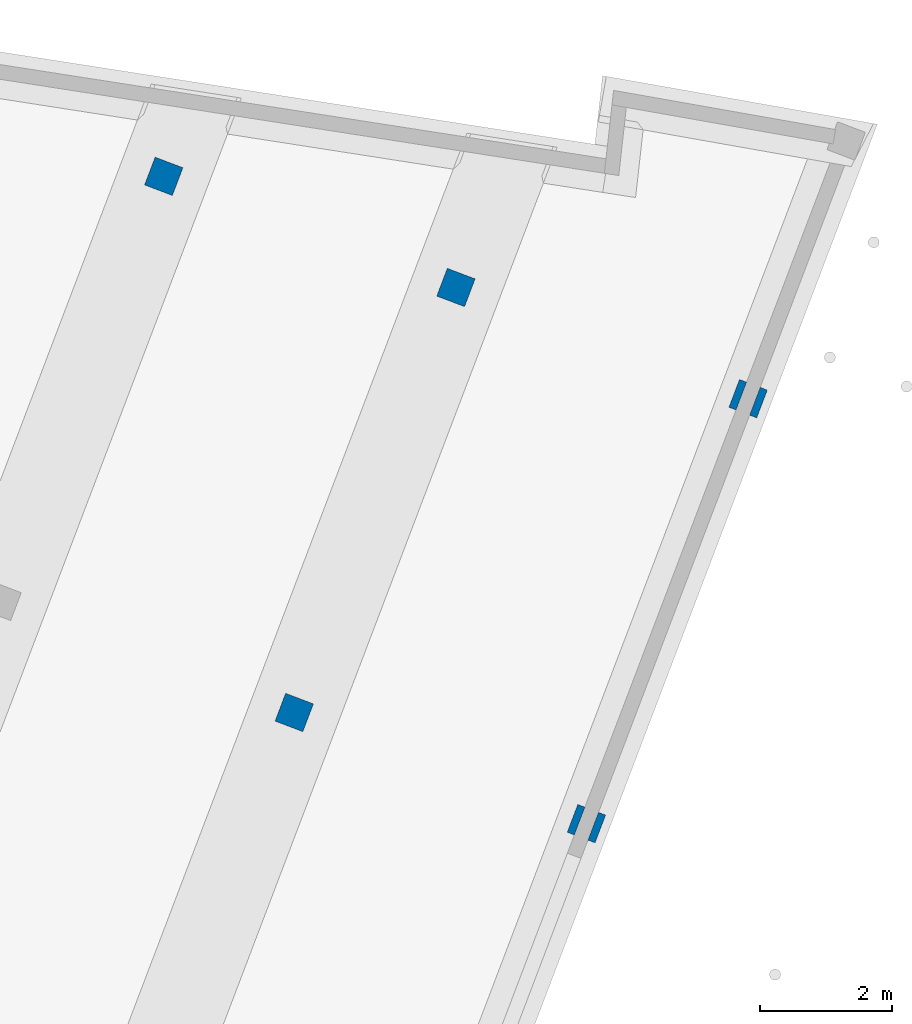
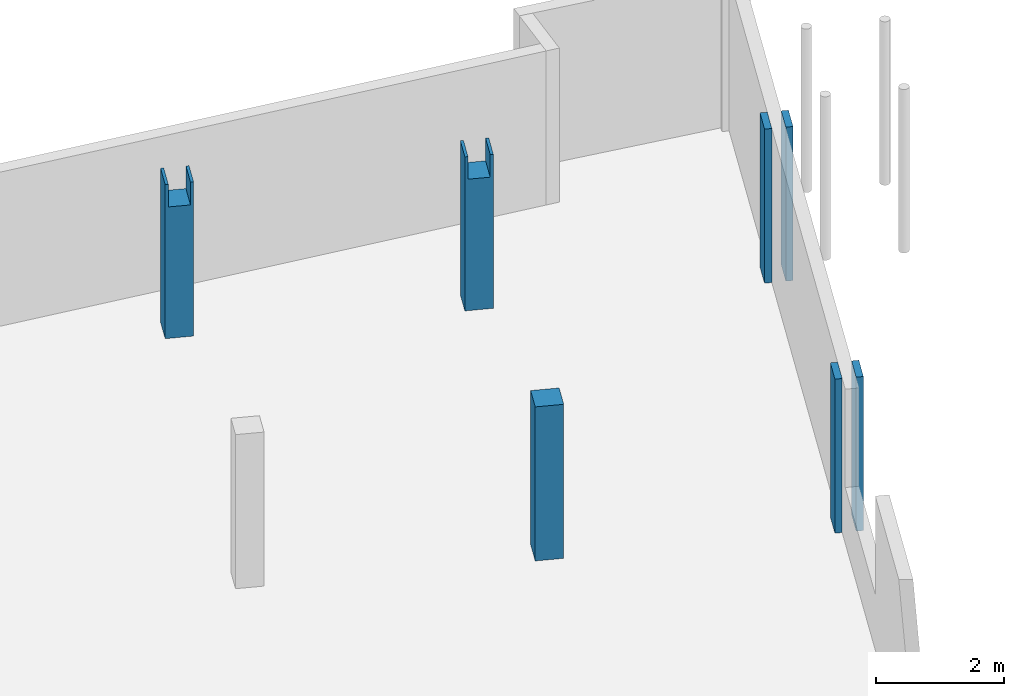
# One storey, part 3 of 11: 5 columns.
"""IFC2X3 building model written with IfcOpenShell, lengths in millimetres."""

from ifc_helpers import new_model, entity, si_unit, converted_unit, derived_unit, direction, frame, frame_2d, origin, place, context, subcontext, project, spatial, polyline, rectangle, outline, extrude, source, transform, mapped, material, type_object, type_shapes, element, save


model = new_model("IFC2X3")

# Units and contexts
model_context = context("Model", 3, precision=0.01, world=origin(), true_north=direction((6.123233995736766e-17, 1.0)))
body_context = subcontext(model_context, "Body", "Model", "MODEL_VIEW")
ifc_project = project(units=[si_unit("LENGTHUNIT", "METRE", prefix="MILLI"), converted_unit("PLANEANGLEUNIT", "DEGREE", entity("IfcPlaneAngleMeasure", 0.017453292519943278), si_unit("PLANEANGLEUNIT", "RADIAN"), dimensions=[0, 0, 0, 0, 0, 0, 0]), si_unit("AREAUNIT", "SQUARE_METRE"), derived_unit("THERMALTRANSMITTANCEUNIT", [(si_unit("MASSUNIT", "GRAM", prefix="KILO"), 1), (si_unit("THERMODYNAMICTEMPERATUREUNIT", "KELVIN"), -1), (si_unit("TIMEUNIT", "SECOND"), -3)])], contexts=[model_context])

# Site, building, storey
site_placement = place(None, frame((-72937.88054949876, 11621.45624098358, 0.0), z_axis=(0.0, 0.0, 1.0), x_axis=(0.9346418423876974, -0.35559053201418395, 0.0)))
site = spatial("IfcSite", under=ifc_project, at=site_placement, Name="Default", CompositionType="ELEMENT")
building_placement = place(site_placement, origin())
building = spatial("IfcBuilding", under=site, at=building_placement, CompositionType="ELEMENT")
storey_placement = place(building_placement, frame((0.0, 0.0, -3160.0)))
storey = spatial("IfcBuildingStorey", under=building, at=storey_placement, Name="-1 kelder", CompositionType="ELEMENT", Elevation=-3160.0)

# Columns
ifc_material = material(Name="beton_gewapend_ihw")
column_type_1 = type_object("IfcColumnType", Name="450x450mm", PredefinedType="COLUMN", material=ifc_material)
shared_shape_1 = source(origin(), body_context, "Body", "SweptSolid", [
    extrude(rectangle(XDim=2930.0, YDim=450.00000000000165, at=frame_2d((1.1368683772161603e-13, 0.0), x_axis=(1.0, 0.0))), frame((47885.0, 21880.0, -1695.0), z_axis=(1.0, 0.0, 0.0), x_axis=(0.0, 0.0, 1.0)), (0.0, 0.0, 1.0), 450.00000000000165),
])
type_shapes(column_type_1, [shared_shape_1])
column_1_placement = place(storey_placement, frame((0.0, 0.0, 3160.0)))
element("IfcColumn", 1, at=column_1_placement, inside=storey, type_object=column_type_1, material=ifc_material, Name="28.11_SCO_BetonKolomRechthoek:450x450mm", ObjectType="28.11_SCO_BetonKolomRechthoek:450x450mm", context=body_context, shape_type="MappedRepresentation", body=[
    mapped(shared_shape_1, transform((0.0, 0.0, 0.0), scale=1.0)),
])
column_type_2 = type_object("IfcColumnType", Name="450x450mm", PredefinedType="COLUMN", material=ifc_material)
shared_shape_2 = source(origin(), body_context, "Body", "SweptSolid", [
    extrude(rectangle(XDim=2930.0, YDim=114.99999999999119, at=frame_2d((1.1368683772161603e-13, 0.0), x_axis=(1.0, 0.0))), frame((52672.49999999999, 21655.0, -1695.0), z_axis=(0.0, 1.0, 0.0), x_axis=(0.0, 0.0, 1.0)), (0.0, 0.0, 1.0), 450.00000000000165),
    extrude(rectangle(XDim=2930.0, YDim=115.00000000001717, at=frame_2d((1.1368683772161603e-13, -1.2992273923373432e-11), x_axis=(1.0, 0.0))), frame((53007.5, 21655.0, -1695.0), z_axis=(0.0, 1.0, 0.0), x_axis=(0.0, 0.0, 1.0)), (0.0, 0.0, 1.0), 450.00000000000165),
])
type_shapes(column_type_2, [shared_shape_2])
column_2_placement = place(storey_placement, frame((0.0, 0.0, 3160.0)))
element("IfcColumn", 2, at=column_2_placement, inside=storey, type_object=column_type_2, material=ifc_material, Name="28.11_SCO_BetonKolomRechthoek:450x450mm", ObjectType="28.11_SCO_BetonKolomRechthoek:450x450mm", context=body_context, shape_type="MappedRepresentation", body=[
    mapped(shared_shape_2, transform((0.0, 0.0, 0.0), scale=1.0)),
])
column_type_3 = type_object("IfcColumnType", Name="450x450mm", PredefinedType="COLUMN", material=ifc_material)
shared_shape_3 = source(origin(), body_context, "Body", "SweptSolid", [
    extrude(outline(polyline([(-2090.0, -225.0), (840.0, -225.0), (840.0, -175.0), (410.0, -175.0), (410.0, 175.0), (840.0, 175.0), (840.0, 225.0), (-2090.0, 225.0), (-2090.0, -225.0)])), frame((43380.0, 28535.0, -1070.0), z_axis=(0.0, 1.0, 0.0), x_axis=(0.0, 0.0, 1.0)), (0.0, 0.0, 1.0), 450.00000000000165),
])
type_shapes(column_type_3, [shared_shape_3])
column_3_placement = place(storey_placement, frame((0.0, 0.0, 3160.0)))
element("IfcColumn", 3, at=column_3_placement, inside=storey, type_object=column_type_3, material=ifc_material, Name="28.11_SCO_BetonKolomRechthoek:450x450mm", ObjectType="28.11_SCO_BetonKolomRechthoek:450x450mm", context=body_context, shape_type="MappedRepresentation", body=[
    mapped(shared_shape_3, transform((0.0, 0.0, 0.0), scale=1.0)),
])
column_type_4 = type_object("IfcColumnType", Name="450x450mm", PredefinedType="COLUMN", material=ifc_material)
shared_shape_4 = source(origin(), body_context, "Body", "SweptSolid", [
    extrude(outline(polyline([(-2090.0, -225.0), (840.0, -225.0), (840.0, -175.0), (410.0, -175.0), (410.0, 175.0), (840.0, 175.0), (840.0, 225.0), (-2090.0, 225.0), (-2090.0, -225.0)])), frame((48110.0, 28535.0, -1070.0), z_axis=(0.0, 1.0, 0.0), x_axis=(0.0, 0.0, 1.0)), (0.0, 0.0, 1.0), 450.00000000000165),
])
type_shapes(column_type_4, [shared_shape_4])
column_4_placement = place(storey_placement, frame((0.0, 0.0, 3160.0)))
element("IfcColumn", 4, at=column_4_placement, inside=storey, type_object=column_type_4, material=ifc_material, Name="28.11_SCO_BetonKolomRechthoek:450x450mm", ObjectType="28.11_SCO_BetonKolomRechthoek:450x450mm", context=body_context, shape_type="MappedRepresentation", body=[
    mapped(shared_shape_4, transform((0.0, 0.0, 0.0), scale=1.0)),
])
column_type_5 = type_object("IfcColumnType", Name="450x450mm", PredefinedType="COLUMN", material=ifc_material)
shared_shape_5 = source(origin(), body_context, "Body", "SweptSolid", [
    extrude(rectangle(XDim=2930.0, YDim=114.99999999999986, at=frame_2d((1.1368683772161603e-13, -4.330757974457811e-12), x_axis=(1.0, 0.0))), frame((52672.5, 28535.0, -1695.0), z_axis=(0.0, 1.0, 0.0), x_axis=(0.0, 0.0, 1.0)), (0.0, 0.0, 1.0), 450.00000000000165),
    extrude(rectangle(XDim=2930.0, YDim=114.99999999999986, at=frame_2d((1.1368683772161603e-13, -4.330757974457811e-12), x_axis=(1.0, 0.0))), frame((53007.5, 28535.0, -1695.0), z_axis=(0.0, 1.0, 0.0), x_axis=(0.0, 0.0, 1.0)), (0.0, 0.0, 1.0), 450.00000000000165),
])
type_shapes(column_type_5, [shared_shape_5])
column_5_placement = place(storey_placement, frame((0.0, 0.0, 3160.0)))
element("IfcColumn", 5, at=column_5_placement, inside=storey, type_object=column_type_5, material=ifc_material, Name="28.11_SCO_BetonKolomRechthoek:450x450mm", ObjectType="28.11_SCO_BetonKolomRechthoek:450x450mm", context=body_context, shape_type="MappedRepresentation", body=[
    mapped(shared_shape_5, transform((0.0, 0.0, 0.0), scale=1.0)),
])

save(model, "model.ifc")
